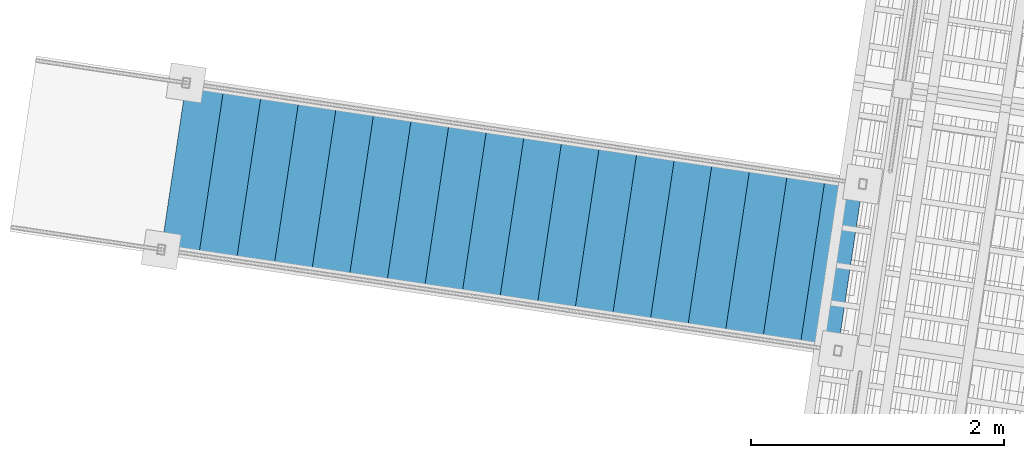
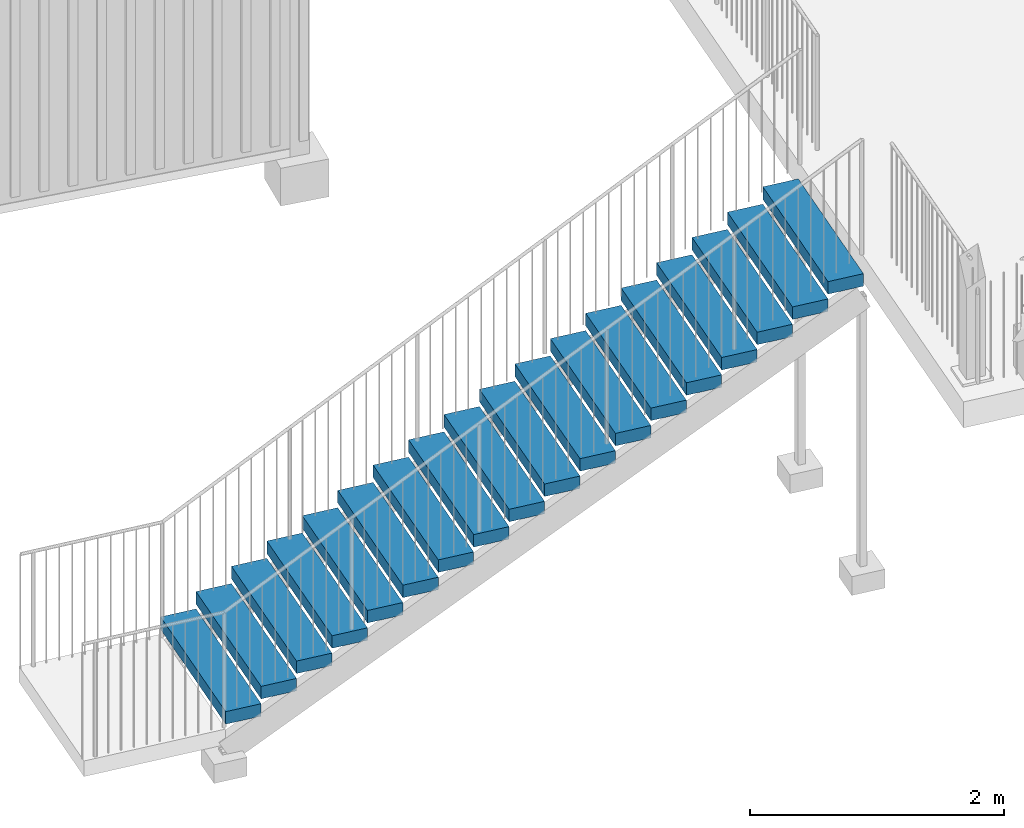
# One storey, part 123 of 131: 1 stair flight, 1 element without a shape of its own.
"""IFC4 building model written with IfcOpenShell, lengths in metres."""

from ifc_helpers import new_model, si_unit, direction, frame, origin_with_axes, place, context, subcontext, project, spatial, polyline, outline, extrude, material, element, aggregate, save


model = new_model("IFC4")

# Units and contexts
model_context = context("Model", 3, precision=1e-05, world=origin_with_axes(), true_north=direction((0.0, 1.0)))
body_context = subcontext(model_context, "Body", "Model", "MODEL_VIEW")
ifc_project = project(units=[si_unit("VOLUMEUNIT", "CUBIC_METRE"), si_unit("LENGTHUNIT", "METRE"), si_unit("AREAUNIT", "SQUARE_METRE")], contexts=[model_context])

# Site, building, storey
site_placement = place(None, origin_with_axes())
site = spatial("IfcSite", under=ifc_project, at=site_placement, Name="Lares · Rua das Mercês · artigo 4771")
building_placement = place(site_placement, frame((15.0, 9.7, 15.8), z_axis=(0.0, 0.0, 1.0), x_axis=(0.989015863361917, -0.147809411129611, 0.0)))
building = spatial("IfcBuilding", under=site, at=building_placement, Name="Casa Sobreposta")
storey_placement = place(building_placement, origin_with_axes())
storey = spatial("IfcBuildingStorey", under=building, at=storey_placement, Name="00 · Habitação e estacionamento", Elevation=15.8)

# Stair, stair flight
stair_placement = place(storey_placement, origin_with_axes())
stair = element("IfcStair", 1, at=stair_placement, inside=storey, Name="Jardim · escada pela fachada poente", PredefinedType="STRAIGHT_RUN_STAIR")
ifc_material = material(Name="Betão armado / Stahlbeton", Category="concrete")
stair_flight_placement = place(stair_placement, origin_with_axes())
stair_flight = element("IfcStairFlight", 2, at=stair_flight_placement, material=ifc_material, Name="Jardim · lanço poente", NumberOfRisers=19, NumberOfTreads=18, PredefinedType="STRAIGHT", RiserHeight=0.166315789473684, TreadLength=0.3, context=body_context, shape_type="SweptSolid", body=[
    extrude(outline(polyline([(-6.25, 0.4), (-6.25, 1.8), (-6.55, 1.8), (-6.55, 0.4), (-6.25, 0.4)])), frame((0.0, 0.0, -0.326315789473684), z_axis=(0.0, 0.0, 1.0), x_axis=(1.0, 0.0, 0.0)), (0.0, 0.0, 1.0), 0.12),
    extrude(outline(polyline([(-6.55, 0.4), (-6.55, 1.8), (-6.85, 1.8), (-6.85, 0.4), (-6.55, 0.4)])), frame((0.0, 0.0, -0.492631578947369), z_axis=(0.0, 0.0, 1.0), x_axis=(1.0, 0.0, 0.0)), (0.0, 0.0, 1.0), 0.12),
    extrude(outline(polyline([(-6.85, 0.4), (-6.85, 1.8), (-7.15, 1.8), (-7.15, 0.4), (-6.85, 0.4)])), frame((0.0, 0.0, -0.658947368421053), z_axis=(0.0, 0.0, 1.0), x_axis=(1.0, 0.0, 0.0)), (0.0, 0.0, 1.0), 0.12),
    extrude(outline(polyline([(-7.15, 0.4), (-7.15, 1.8), (-7.45, 1.8), (-7.45, 0.4), (-7.15, 0.4)])), frame((0.0, 0.0, -0.825263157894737), z_axis=(0.0, 0.0, 1.0), x_axis=(1.0, 0.0, 0.0)), (0.0, 0.0, 1.0), 0.12),
    extrude(outline(polyline([(-7.45, 0.4), (-7.45, 1.8), (-7.75, 1.8), (-7.75, 0.4), (-7.45, 0.4)])), frame((0.0, 0.0, -0.991578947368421), z_axis=(0.0, 0.0, 1.0), x_axis=(1.0, 0.0, 0.0)), (0.0, 0.0, 1.0), 0.12),
    extrude(outline(polyline([(-7.75, 0.4), (-7.75, 1.8), (-8.05, 1.8), (-8.05, 0.4), (-7.75, 0.4)])), frame((0.0, 0.0, -1.15789473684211), z_axis=(0.0, 0.0, 1.0), x_axis=(1.0, 0.0, 0.0)), (0.0, 0.0, 1.0), 0.12),
    extrude(outline(polyline([(-8.05, 0.4), (-8.05, 1.8), (-8.35, 1.8), (-8.35, 0.4), (-8.05, 0.4)])), frame((0.0, 0.0, -1.32421052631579), z_axis=(0.0, 0.0, 1.0), x_axis=(1.0, 0.0, 0.0)), (0.0, 0.0, 1.0), 0.12),
    extrude(outline(polyline([(-8.35, 0.4), (-8.35, 1.8), (-8.65, 1.8), (-8.65, 0.4), (-8.35, 0.4)])), frame((0.0, 0.0, -1.49052631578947), z_axis=(0.0, 0.0, 1.0), x_axis=(1.0, 0.0, 0.0)), (0.0, 0.0, 1.0), 0.12),
    extrude(outline(polyline([(-8.65, 0.4), (-8.65, 1.8), (-8.95, 1.8), (-8.95, 0.4), (-8.65, 0.4)])), frame((0.0, 0.0, -1.65684210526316), z_axis=(0.0, 0.0, 1.0), x_axis=(1.0, 0.0, 0.0)), (0.0, 0.0, 1.0), 0.12),
    extrude(outline(polyline([(-8.95, 0.4), (-8.95, 1.8), (-9.25, 1.8), (-9.25, 0.4), (-8.95, 0.4)])), frame((0.0, 0.0, -1.82315789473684), z_axis=(0.0, 0.0, 1.0), x_axis=(1.0, 0.0, 0.0)), (0.0, 0.0, 1.0), 0.12),
    extrude(outline(polyline([(-9.25, 0.4), (-9.25, 1.8), (-9.55, 1.8), (-9.55, 0.4), (-9.25, 0.4)])), frame((0.0, 0.0, -1.98947368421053), z_axis=(0.0, 0.0, 1.0), x_axis=(1.0, 0.0, 0.0)), (0.0, 0.0, 1.0), 0.12),
    extrude(outline(polyline([(-9.55, 0.4), (-9.55, 1.8), (-9.85, 1.8), (-9.85, 0.4), (-9.55, 0.4)])), frame((0.0, 0.0, -2.15578947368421), z_axis=(0.0, 0.0, 1.0), x_axis=(1.0, 0.0, 0.0)), (0.0, 0.0, 1.0), 0.12),
    extrude(outline(polyline([(-9.85, 0.4), (-9.85, 1.8), (-10.15, 1.8), (-10.15, 0.4), (-9.85, 0.4)])), frame((0.0, 0.0, -2.3221052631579), z_axis=(0.0, 0.0, 1.0), x_axis=(1.0, 0.0, 0.0)), (0.0, 0.0, 1.0), 0.12),
    extrude(outline(polyline([(-10.15, 0.4), (-10.15, 1.8), (-10.45, 1.8), (-10.45, 0.4), (-10.15, 0.4)])), frame((0.0, 0.0, -2.48842105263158), z_axis=(0.0, 0.0, 1.0), x_axis=(1.0, 0.0, 0.0)), (0.0, 0.0, 1.0), 0.12),
    extrude(outline(polyline([(-10.45, 0.4), (-10.45, 1.8), (-10.75, 1.8), (-10.75, 0.4), (-10.45, 0.4)])), frame((0.0, 0.0, -2.65473684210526), z_axis=(0.0, 0.0, 1.0), x_axis=(1.0, 0.0, 0.0)), (0.0, 0.0, 1.0), 0.12),
    extrude(outline(polyline([(-10.75, 0.4), (-10.75, 1.8), (-11.05, 1.8), (-11.05, 0.4), (-10.75, 0.4)])), frame((0.0, 0.0, -2.82105263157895), z_axis=(0.0, 0.0, 1.0), x_axis=(1.0, 0.0, 0.0)), (0.0, 0.0, 1.0), 0.12),
    extrude(outline(polyline([(-11.05, 0.4), (-11.05, 1.8), (-11.35, 1.8), (-11.35, 0.4), (-11.05, 0.4)])), frame((0.0, 0.0, -2.98736842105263), z_axis=(0.0, 0.0, 1.0), x_axis=(1.0, 0.0, 0.0)), (0.0, 0.0, 1.0), 0.12),
    extrude(outline(polyline([(-11.35, 0.4), (-11.35, 1.8), (-11.65, 1.8), (-11.65, 0.4), (-11.35, 0.4)])), frame((0.0, 0.0, -3.15368421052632), z_axis=(0.0, 0.0, 1.0), x_axis=(1.0, 0.0, 0.0)), (0.0, 0.0, 1.0), 0.12),
])
aggregate(stair, [stair_flight])

save(model, "model.ifc")
